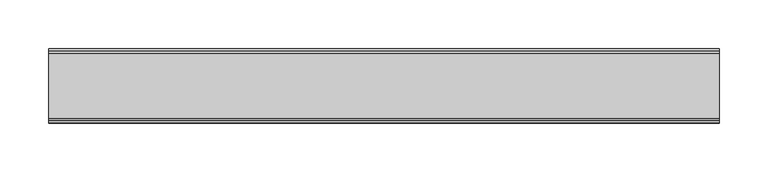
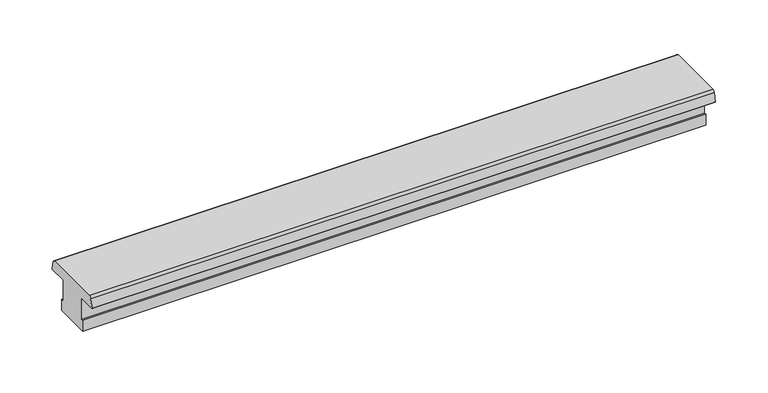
"""IFC4 building model written with IfcOpenShell, lengths in millimetres: proxy geometry, Weiku - Montante - Divisor 02.2.01.040 : Weiku - Montante - Divisor 02.2.01.040."""

from ifc_helpers import new_model, si_unit, point, frame, frame_2d, origin, place, context, project, spatial, polyline, circle_curve, trimmed, segment, composite_curve, outline, extrude, source, transform, mapped, element, save


def generic_models_5265c1e6(model_context):
    return source(origin(), model_context, "Body", "SweptSolid", [
        extrude(outline(composite_curve([segment(polyline([(-33.0007245, 50.0), (33.0007245, 50.0)]), True, "CONTINUOUS"), segment(trimmed(circle_curve(frame_2d((33.0007245, 47.0)), 3.0), [point((33.0007245, 50.0))], [point((35.898502, 47.7764571))], False, "CARTESIAN"), True, "CONTINUOUS"), segment(polyline([(35.898502, 47.7764571), (38.4496907, 38.2552914)]), True, "CONTINUOUS"), segment(trimmed(circle_curve(frame_2d((37.8701352, 38.1)), 0.6), [point((38.4496907, 38.2552914))], [point((37.8701352, 37.5))], False, "CARTESIAN"), True, "CONTINUOUS"), segment(polyline([(37.8701352, 37.5), (17.5004577, 37.5), (17.5004577, 12.168694), (20.5, 12.972419), (20.5, 0.0), (-20.5, 0.0), (-20.5, 12.972419), (-17.5004577, 12.168694), (-17.5004577, 37.5), (-37.8701352, 37.5)]), True, "CONTINUOUS"), segment(trimmed(circle_curve(frame_2d((-37.8701352, 38.1)), 0.6), [point((-37.8701352, 37.5))], [point((-38.4496907, 38.2552914))], False, "CARTESIAN"), True, "CONTINUOUS"), segment(polyline([(-38.4496907, 38.2552914), (-35.898502, 47.7764571)]), True, "CONTINUOUS"), segment(trimmed(circle_curve(frame_2d((-33.0007245, 47.0)), 3.0), [point((-35.898502, 47.7764571))], [point((-33.0007245, 50.0))], False, "CARTESIAN"), True, "CONTINUOUS")], self_intersect=False)), frame((-345.25, 0.0, 0.0), z_axis=(1.0, 0.0, 0.0), x_axis=(0.0, 1.0, 0.0)), (0.0, 0.0, 1.0), 690.5),
    ])


if __name__ == "__main__":
    model = new_model("IFC4")
    model_context = context("Model", 3, world=origin())
    ifc_project = project(units=[si_unit("LENGTHUNIT", "METRE", prefix="MILLI")], contexts=[model_context])
    site = spatial("IfcSite", under=ifc_project)
    building = spatial("IfcBuilding", under=site)
    placement = place(None, origin())
    generic_models_shape = generic_models_5265c1e6(model_context)
    element("IfcBuildingElementProxy", 1, Name="Weiku - Montante - Divisor 02.2.01.040 : Weiku - Montante - Divisor 02.2.01.040", ObjectType="Weiku - Montante - Divisor 02.2.01.040 : Weiku - Montante - Divisor 02.2.01.040", at=placement, inside=building, context=model_context, shape_type="MappedRepresentation", body=[
        mapped(generic_models_shape, transform((0.0, 0.0, 0.0), x_axis=(1.0, 0.0, 0.0), y_axis=(0.0, 1.0, 0.0), z_axis=(0.0, 0.0, 1.0))),
    ])
    save(model, "model.ifc")
